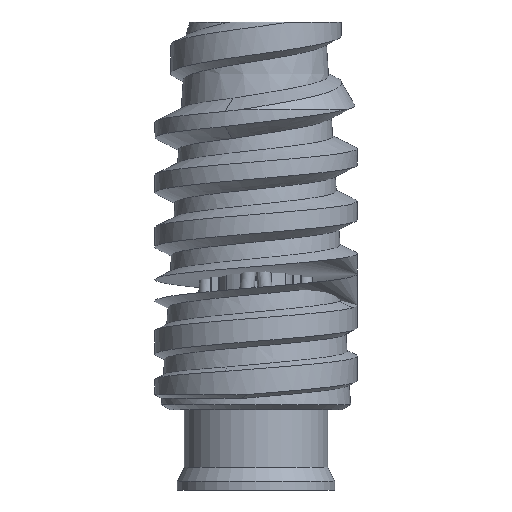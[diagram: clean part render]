
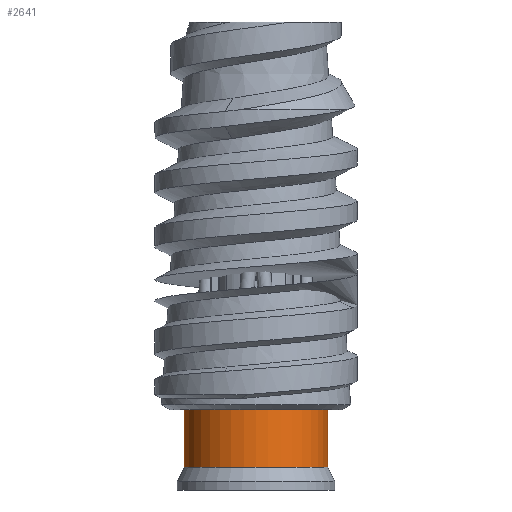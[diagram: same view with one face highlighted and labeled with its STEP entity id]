
A CAD part, front view. The second image highlights one B-rep face of the part: STEP entity #2641.
In plain terms, the highlighted cylindrical face has radius 25 mm (diameter 50 mm), a full revolution.
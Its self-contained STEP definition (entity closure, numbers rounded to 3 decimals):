
#245=CIRCLE('',#2913,25.);
#246=CIRCLE('',#2914,25.);
#250=CIRCLE('',#2922,25.);
#251=CIRCLE('',#2923,25.);
#362=FACE_OUTER_BOUND('',#514,.T.);
#514=EDGE_LOOP('',(#2328,#2329,#2330,#2331,#2332,#2333));
#797=LINE('',#15592,#969);
#969=VECTOR('',#3561,25.);
#1257=VERTEX_POINT('',#15553);
#1258=VERTEX_POINT('',#15554);
#1263=VERTEX_POINT('',#15586);
#1264=VERTEX_POINT('',#15587);
#1631=EDGE_CURVE('',#1257,#1258,#245,.T.);
#1632=EDGE_CURVE('',#1258,#1257,#246,.T.);
#1640=EDGE_CURVE('',#1263,#1264,#250,.T.);
#1642=EDGE_CURVE('',#1264,#1263,#251,.T.);
#1643=EDGE_CURVE('',#1258,#1264,#797,.T.);
#2328=ORIENTED_EDGE('',*,*,#1631,.T.);
#2329=ORIENTED_EDGE('',*,*,#1643,.T.);
#2330=ORIENTED_EDGE('',*,*,#1640,.F.);
#2331=ORIENTED_EDGE('',*,*,#1642,.F.);
#2332=ORIENTED_EDGE('',*,*,#1643,.F.);
#2333=ORIENTED_EDGE('',*,*,#1632,.T.);
#2531=CYLINDRICAL_SURFACE('',#2924,25.);
#2641=ADVANCED_FACE('',(#362),#2531,.T.);
#2913=AXIS2_PLACEMENT_3D('',#15555,#3534,#3535);
#2914=AXIS2_PLACEMENT_3D('',#15556,#3536,#3537);
#2922=AXIS2_PLACEMENT_3D('',#15588,#3554,#3555);
#2923=AXIS2_PLACEMENT_3D('',#15590,#3557,#3558);
#2924=AXIS2_PLACEMENT_3D('',#15591,#3559,#3560);
#3534=DIRECTION('center_axis',(0.,0.,-1.));
#3535=DIRECTION('ref_axis',(1.,0.,0.));
#3536=DIRECTION('center_axis',(0.,0.,-1.));
#3537=DIRECTION('ref_axis',(1.,0.,0.));
#3554=DIRECTION('center_axis',(0.,0.,-1.));
#3555=DIRECTION('ref_axis',(1.,0.,0.));
#3557=DIRECTION('center_axis',(0.,0.,-1.));
#3558=DIRECTION('ref_axis',(1.,0.,0.));
#3559=DIRECTION('center_axis',(0.,0.,-1.));
#3560=DIRECTION('ref_axis',(1.,0.,0.));
#3561=DIRECTION('',(0.,0.,-1.));
#15553=CARTESIAN_POINT('',(25.,0.,-9.));
#15554=CARTESIAN_POINT('',(-25.,0.,-9.));
#15555=CARTESIAN_POINT('Origin',(0.,0.,-9.));
#15556=CARTESIAN_POINT('Origin',(0.,0.,-9.));
#15586=CARTESIAN_POINT('',(25.,0.,-29.));
#15587=CARTESIAN_POINT('',(-25.,0.,-29.));
#15588=CARTESIAN_POINT('Origin',(0.,0.,-29.));
#15590=CARTESIAN_POINT('Origin',(0.,0.,-29.));
#15591=CARTESIAN_POINT('Origin',(0.,0.,-19.));
#15592=CARTESIAN_POINT('',(-25.,0.,-19.));
